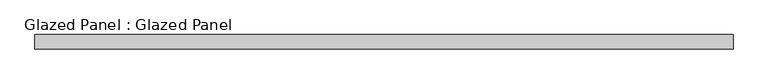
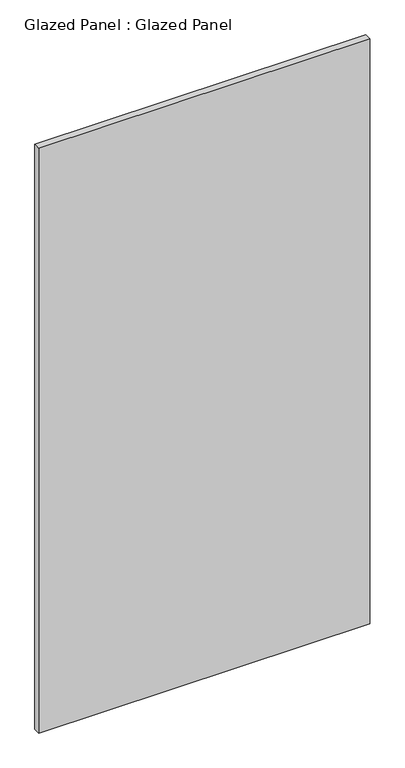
"""IFC4 building model written with IfcOpenShell, lengths in millimetres: plate geometry, Glazed Panel : Glazed Panel."""

from ifc_helpers import new_model, si_unit, origin, origin_with_axes, place, context, project, spatial, polyline, outline, extrude, source, transform, mapped, element, save


def glazed_panel_glazed_panel_96306bcd(model_context):
    return source(origin(), model_context, "Body", "SweptSolid", [
        extrude(outline(polyline([(627.1536732, 38.1), (-627.1536732, 38.1), (-627.1536732, 63.5), (627.1536732, 63.5), (627.1536732, 38.1)])), origin_with_axes(), (0.0, 0.0, 1.0), 2343.15),
    ])


if __name__ == "__main__":
    model = new_model("IFC4")
    model_context = context("Model", 3, world=origin())
    ifc_project = project(units=[si_unit("LENGTHUNIT", "METRE", prefix="MILLI")], contexts=[model_context])
    site = spatial("IfcSite", under=ifc_project)
    building = spatial("IfcBuilding", under=site)
    placement = place(None, origin())
    glazed_panel_glazed_panel_shape = glazed_panel_glazed_panel_96306bcd(model_context)
    element("IfcPlate", 1, ObjectType="Glazed Panel : Glazed Panel", at=placement, inside=building, context=model_context, shape_type="MappedRepresentation", body=[
        mapped(glazed_panel_glazed_panel_shape, transform((0.0, 0.0, 0.0), x_axis=(1.0, 0.0, 0.0), y_axis=(0.0, 1.0, 0.0), z_axis=(0.0, 0.0, 1.0))),
    ])
    save(model, "model.ifc")
